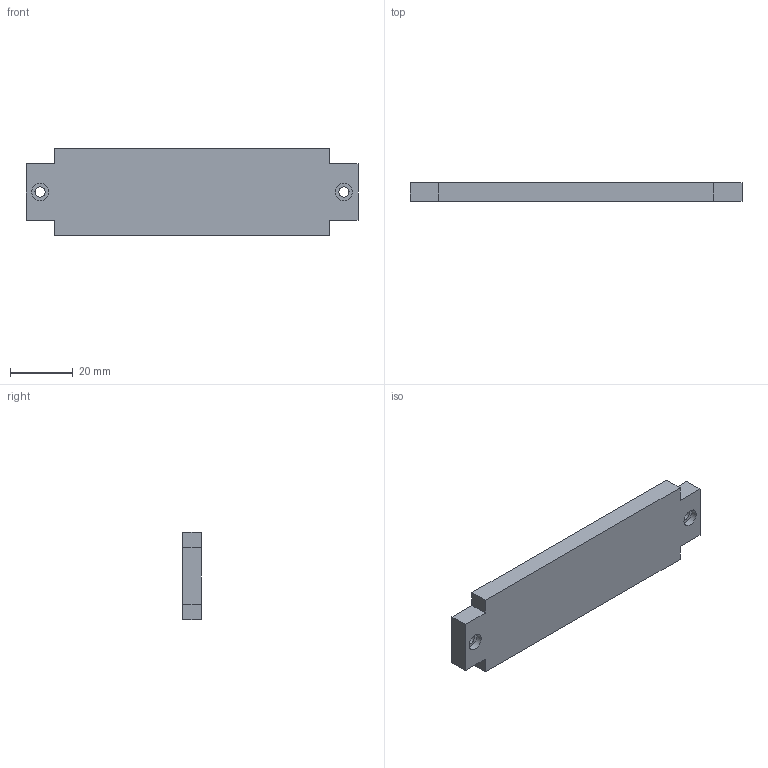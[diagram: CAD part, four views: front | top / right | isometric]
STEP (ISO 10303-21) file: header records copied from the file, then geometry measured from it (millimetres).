
FILE_DESCRIPTION(/* description */ (''),/* implementation_level */ '2;1');
FILE_NAME(/* name */ 'tapa_trasera.step',/* time_stamp */ '2026-03-08T22:57:53+01:00',/* author */ (''),/* organization */ (''),/* preprocessor_version */ 'ST-DEVELOPER v20.1',/* originating_system */ 'Autodesk Translation Framework v14.24.0.0',/* authorisation */ '');
FILE_SCHEMA (('AUTOMOTIVE_DESIGN { 1 0 10303 214 3 1 1 }'));
Length unit declared in the file: millimetre
Products named in the file (1): Flanders (v3~recovered)
Bounding box: 106 x 6 x 28 mm (x, y, z)
Volume: 16564.5 mm3; surface area: 7301.8 mm2
Topology: 1 solids, 1 shells, 20 faces, 48 edges, 32 vertices
Faces by surface type: plane 16, cylinder 4
Full cylindrical faces by diameter (mm): 3.3 x2, 5.5 x2
Entity records: 645 total; most frequent: CARTESIAN_POINT 101, DIRECTION 98, ORIENTED_EDGE 96, EDGE_CURVE 48, LINE 40, VECTOR 40, VERTEX_POINT 32, AXIS2_PLACEMENT_3D 29
